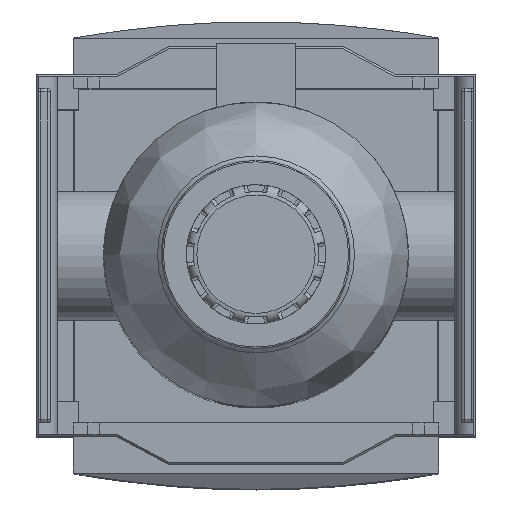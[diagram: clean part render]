
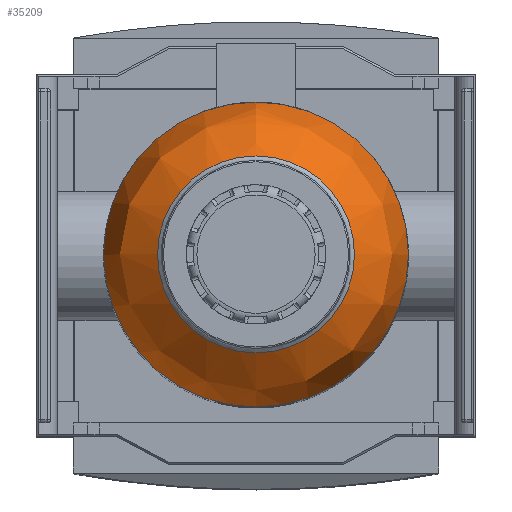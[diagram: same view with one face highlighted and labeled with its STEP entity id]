
A CAD part, top view. The second image highlights one B-rep face of the part: STEP entity #35209.
In plain terms, the highlighted free-form (B-spline) face has degree [2, 2] with [5, 9] control points.
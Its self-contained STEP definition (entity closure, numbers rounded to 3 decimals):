
#35134=CARTESIAN_POINT('',(0.0,0.,125.782));
#35135=CARTESIAN_POINT('',(-4.999,0.,133.08));
#35136=CARTESIAN_POINT('',(-13.45,0.,130.463));
#35137=CARTESIAN_POINT('',(-21.9,0.,127.846));
#35138=CARTESIAN_POINT('',(-21.9,0.,119.));
#35139=CARTESIAN_POINT('',(0.,0.,125.782));
#35140=CARTESIAN_POINT('',(-4.999,-4.999,133.08));
#35141=CARTESIAN_POINT('',(-13.45,-13.45,130.463));
#35142=CARTESIAN_POINT('',(-21.9,-21.9,127.846));
#35143=CARTESIAN_POINT('',(-21.9,-21.9,119.));
#35144=CARTESIAN_POINT('',(0.,0.,125.782));
#35145=CARTESIAN_POINT('',(0.,-4.999,133.08));
#35146=CARTESIAN_POINT('',(0.,-13.45,130.463));
#35147=CARTESIAN_POINT('',(0.,-21.9,127.846));
#35148=CARTESIAN_POINT('',(0.,-21.9,119.));
#35149=CARTESIAN_POINT('',(0.,0.,125.782));
#35150=CARTESIAN_POINT('',(4.999,-4.999,133.08));
#35151=CARTESIAN_POINT('',(13.45,-13.45,130.463));
#35152=CARTESIAN_POINT('',(21.9,-21.9,127.846));
#35153=CARTESIAN_POINT('',(21.9,-21.9,119.));
#35154=CARTESIAN_POINT('',(0.,0.,125.782));
#35155=CARTESIAN_POINT('',(4.999,0.,133.08));
#35156=CARTESIAN_POINT('',(13.45,0.,130.463));
#35157=CARTESIAN_POINT('',(21.9,0.,127.846));
#35158=CARTESIAN_POINT('',(21.9,0.,119.));
#35159=CARTESIAN_POINT('',(0.,0.,125.782));
#35160=CARTESIAN_POINT('',(4.999,4.999,133.08));
#35161=CARTESIAN_POINT('',(13.45,13.45,130.463));
#35162=CARTESIAN_POINT('',(21.9,21.9,127.846));
#35163=CARTESIAN_POINT('',(21.9,21.9,119.));
#35164=CARTESIAN_POINT('',(0.,0.,125.782));
#35165=CARTESIAN_POINT('',(0.,4.999,133.08));
#35166=CARTESIAN_POINT('',(0.,13.45,130.463));
#35167=CARTESIAN_POINT('',(0.,21.9,127.846));
#35168=CARTESIAN_POINT('',(0.,21.9,119.));
#35169=CARTESIAN_POINT('',(0.,0.,125.782));
#35170=CARTESIAN_POINT('',(-4.999,4.999,133.08));
#35171=CARTESIAN_POINT('',(-13.45,13.45,130.463));
#35172=CARTESIAN_POINT('',(-21.9,21.9,127.846));
#35173=CARTESIAN_POINT('',(-21.9,21.9,119.));
#35174=CARTESIAN_POINT('',(0.0,0.,125.782));
#35175=CARTESIAN_POINT('',(-4.999,0.,133.08));
#35176=CARTESIAN_POINT('',(-13.45,0.,130.463));
#35177=CARTESIAN_POINT('',(-21.9,0.,127.846));
#35178=CARTESIAN_POINT('',(-21.9,0.,119.));
#35186=(BOUNDED_SURFACE()B_SPLINE_SURFACE(2,2,((#35134,#35139,#35144,#35149,#35154,#35159,#35164,#35169,#35174),(#35135,#35140,#35145,#35150,#35155,#35160,#35165,#35170,#35175),(#35136,#35141,#35146,#35151,#35156,#35161,#35166,#35171,#35176),(#35137,#35142,#35147,#35152,#35157,#35162,#35167,#35172,#35177),(#35138,#35143,#35148,#35153,#35158,#35163,#35168,#35173,#35178)),.UNSPECIFIED.,.F.,.T.,.U.)B_SPLINE_SURFACE_WITH_KNOTS((3,2,3),(3,2,2,2,3),(-2.541,-1.27,0.),(0.0,1.571,3.142,4.712,6.283),.UNSPECIFIED.)GEOMETRIC_REPRESENTATION_ITEM()RATIONAL_B_SPLINE_SURFACE(((1.0,0.707,1.0,0.707,1.0,0.707,1.0,0.707,1.0),(0.805,0.569,0.805,0.569,0.805,0.569,0.805,0.569,0.805),(1.0,0.707,1.0,0.707,1.0,0.707,1.0,0.707,1.0),(0.805,0.569,0.805,0.569,0.805,0.569,0.805,0.569,0.805),(1.0,0.707,1.0,0.707,1.0,0.707,1.0,0.707,1.0)))REPRESENTATION_ITEM('')SURFACE());
#35187=CARTESIAN_POINT('',(0.,21.9,119.));
#35188=VERTEX_POINT('',#35187);
#35189=CARTESIAN_POINT('',(0.,0.0,119.));
#35190=DIRECTION('',(0.0,0.0,-1.0));
#35191=DIRECTION('',(0.0,1.0,0.0));
#35192=AXIS2_PLACEMENT_3D('',#35189,#35190,#35191);
#35193=CIRCLE('',#35192,21.9);
#35194=EDGE_CURVE('',#35188,#35188,#35193,.T.);
#35195=ORIENTED_EDGE('',*,*,#35194,.F.);
#35196=EDGE_LOOP('',(#35195));
#35197=FACE_OUTER_BOUND('',#35196,.T.);
#35198=CARTESIAN_POINT('',(0.,14.146,130.224));
#35199=VERTEX_POINT('',#35198);
#35200=CARTESIAN_POINT('',(0.,0.0,130.224));
#35201=DIRECTION('',(0.0,0.0,-1.0));
#35202=DIRECTION('',(0.0,1.0,0.0));
#35203=AXIS2_PLACEMENT_3D('',#35200,#35201,#35202);
#35204=CIRCLE('',#35203,14.146);
#35205=EDGE_CURVE('',#35199,#35199,#35204,.T.);
#35206=ORIENTED_EDGE('',*,*,#35205,.T.);
#35207=EDGE_LOOP('',(#35206));
#35208=FACE_BOUND('',#35207,.T.);
#35209=ADVANCED_FACE('',(#35197,#35208),#35186,.T.);
